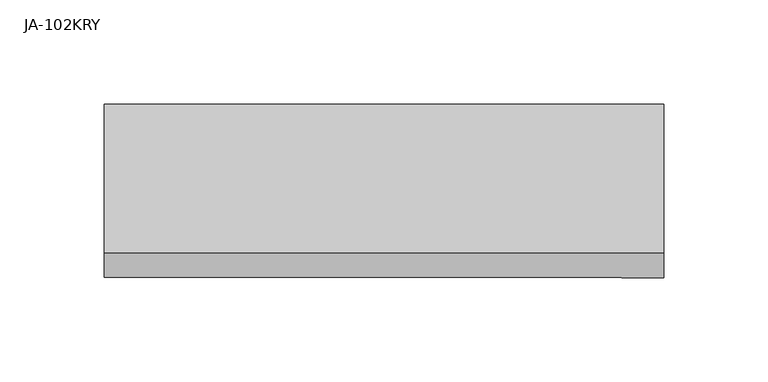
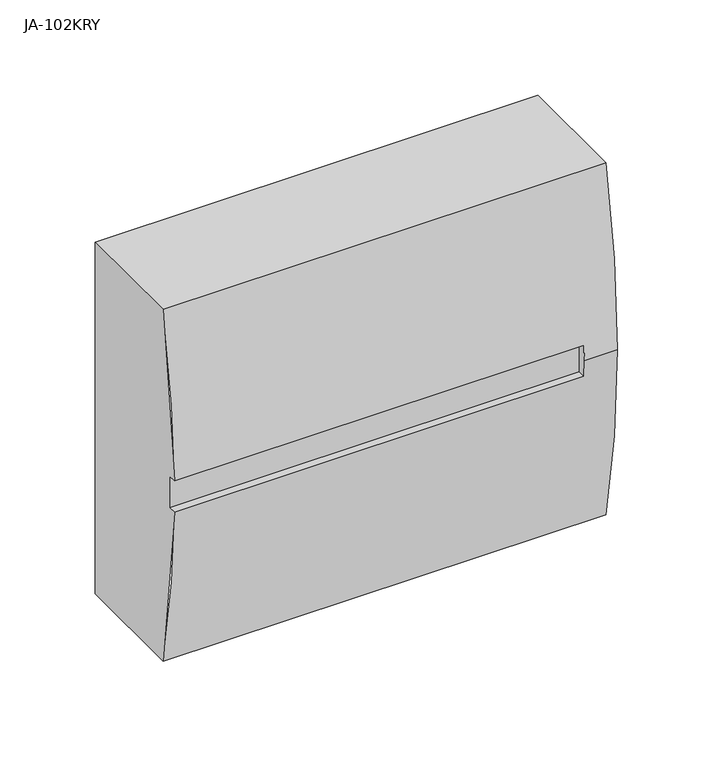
"""IFC4 building model written with IfcOpenShell, lengths in millimetres: proxy geometry, Ústředny.CC : JA-102KRY."""

from ifc_helpers import new_model, si_unit, frame, origin, place, context, project, spatial, circle_curve, source, transform, mapped, element, save
from ifc_brep_helpers import plane_surface, cylinder_surface, advanced_brep


def ja_102kry_66e3460f(model_context):
    return source(origin(), model_context, "Body", "AdvancedBrep", [
        advanced_brep(
        [(134.0, 0.0, -112.5), (134.0, 0.0, 112.5), (134.0, -71.0, 112.5), (134.0, -83.0, 0.0), (134.0, -71.0, -112.5), (-134.0, 0.0, -112.5), (-134.0, -71.0, -112.5), (-134.0, -82.9062436, -10.0), (-134.0, -78.0, -10.0), (-134.0, -78.0, 10.0), (-134.0, -82.9062436, 10.0), (-134.0, -71.0, 112.5), (-134.0, 0.0, 112.5), (114.0, -82.9062436, 10.0), (114.0, -83.0, 0.0), (114.0, -82.9062436, -10.0), (114.0, -78.0, 10.0), (114.0, -78.0, -10.0)],
        [
            (0, 1),
            (1, 2),
            (2, 3, circle_curve(frame((134.0, 450.34375, 0.0), z_axis=(1.0, 0.0, 0.0), x_axis=(0.0, 1.0, 0.0)), 533.34375)),
            (3, 4, circle_curve(frame((134.0, 450.34375, 0.0), z_axis=(1.0, 0.0, 0.0), x_axis=(0.0, 1.0, 0.0)), 533.34375)),
            (4, 0),
            (5, 6),
            (6, 7, circle_curve(frame((-134.0, 450.34375, 0.0), z_axis=(-1.0, 0.0, 0.0), x_axis=(0.0, 1.0, 0.0)), 533.34375)),
            (7, 8),
            (8, 9),
            (9, 10),
            (10, 11, circle_curve(frame((-134.0, 450.34375, 0.0), z_axis=(-1.0, 0.0, 0.0), x_axis=(0.0, 1.0, 0.0)), 533.34375)),
            (11, 12),
            (12, 5),
            (0, 5),
            (12, 1),
            (11, 2),
            (10, 13),
            (13, 14, circle_curve(frame((114.0, 450.34375, 0.0), z_axis=(1.0, 0.0, 0.0), x_axis=(0.0, 1.0, 0.0)), 533.34375)),
            (14, 3),
            (14, 15, circle_curve(frame((114.0, 450.34375, 0.0), z_axis=(1.0, 0.0, 0.0), x_axis=(0.0, 1.0, 0.0)), 533.34375)),
            (15, 7),
            (6, 4),
            (16, 17),
            (17, 15),
            (13, 16),
            (9, 16),
            (17, 8),
        ],
        [
            plane_surface(frame((134.0, 0.0, 112.5), z_axis=(1.0, 0.0, 0.0), x_axis=(0.0, 0.0, 1.0))),
            plane_surface(frame((-134.0, 0.0, 112.5), z_axis=(-1.0, 0.0, 0.0), x_axis=(0.0, 0.0, -1.0))),
            plane_surface(frame((134.0, 0.0, -112.5), z_axis=(0.0, 1.0, 0.0), x_axis=(-1.0, 0.0, 0.0))),
            plane_surface(frame((134.0, 0.0, 112.5), z_axis=(0.0, 0.0, 1.0), x_axis=(-1.0, 0.0, 0.0))),
            cylinder_surface(frame((-134.0, 450.34375, 0.0), z_axis=(1.0, 0.0, 0.0), x_axis=(0.0, 1.0, 0.0)), 533.34375),
            plane_surface(frame((134.0, -71.0, -112.5), z_axis=(0.0, 0.0, -1.0), x_axis=(-1.0, 0.0, 0.0))),
            plane_surface(frame((114.0, -116.3461873, 10.0), z_axis=(-1.0, 0.0, 0.0), x_axis=(0.0, -1.0, 0.0))),
            plane_surface(frame((114.0, -78.0, 10.0), z_axis=(0.0, 0.0, -1.0), x_axis=(-1.0, 0.0, 0.0))),
            plane_surface(frame((114.0, -93.0, -10.0), z_axis=(0.0, 0.0, 1.0), x_axis=(-1.0, 0.0, 0.0))),
            plane_surface(frame((114.0, -78.0, -10.0), z_axis=(0.0, -1.0, 0.0), x_axis=(-1.0, 0.0, 0.0))),
        ],
        [
            (0, [[1, 2, 3, 4, 5]]),
            (1, [[6, 7, 8, 9, 10, 11, 12, 13]]),
            (2, [[-1, 14, -13, 15]]),
            (3, [[-2, -15, -12, 16]]),
            (4, [[-3, -16, -11, 17, 18, 19]]),
            (4, [[-4, -19, 20, 21, -7, 22]]),
            (5, [[-5, -22, -6, -14]]),
            (6, [[23, 24, -20, -18, 25]]),
            (7, [[26, -25, -17, -10]]),
            (8, [[27, -8, -21, -24]]),
            (9, [[-23, -26, -9, -27]]),
        ],
    ),
    ])


if __name__ == "__main__":
    model = new_model("IFC4")
    model_context = context("Model", 3, world=origin())
    ifc_project = project(units=[si_unit("LENGTHUNIT", "METRE", prefix="MILLI")], contexts=[model_context])
    site = spatial("IfcSite", under=ifc_project)
    building = spatial("IfcBuilding", under=site)
    placement = place(None, origin())
    ja_102kry_shape = ja_102kry_66e3460f(model_context)
    element("IfcBuildingElementProxy", 1, Name="Ústředny.CC : JA-102KRY", ObjectType="Ústředny.CC : JA-102KRY", at=placement, inside=building, context=model_context, shape_type="MappedRepresentation", body=[
        mapped(ja_102kry_shape, transform((0.0, 0.0, 0.0), x_axis=(1.0, 0.0, 0.0), y_axis=(0.0, 1.0, 0.0), z_axis=(0.0, 0.0, 1.0))),
    ])
    save(model, "model.ifc")
